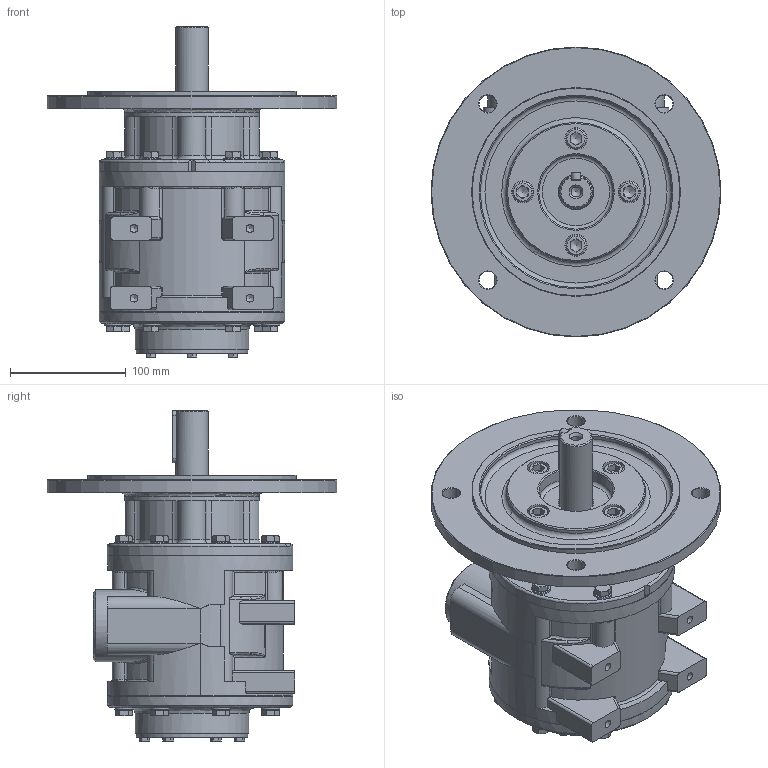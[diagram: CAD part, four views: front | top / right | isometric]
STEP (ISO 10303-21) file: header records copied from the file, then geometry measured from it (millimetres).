
FILE_DESCRIPTION (( 'STEP AP214' ), '1' );
FILE_NAME ('VS10C Defeature.STEP', '2022-06-14T12:01:30', ( '' ), ( '' ), 'SwSTEP 2.0', 'SolidWorks 2020', '' );
FILE_SCHEMA (( 'AUTOMOTIVE_DESIGN' ));
Length unit declared in the file: millimetre
Products named in the file (1): VS10C Defeature
Bounding box: 250 x 250 x 285.3 mm (x, y, z)
Volume: 4047840.2 mm3; surface area: 291840.1 mm2
Topology: 1 solids, 17 shells, 964 faces, 2354 edges, 1447 vertices
Faces by surface type: plane 477, cylinder 201, cone 170, bspline 95, torus 21
Full cylindrical faces by diameter (mm): 6.8 x4, 8 x22, 8.4 x16, 8.5 x1, 13 x16, 15 x4, 16 x16, 18 x4, 19 x4, 28 x1, 30 x1, 30.5 x1, 38.952 x2, 62 x2, 64 x1, 96 x1, 98 x1, 116 x1, 120 x1, 158 x2, 160 x3, 165 x1, 180 x1, 250 x1
Entity records: 43872 total; most frequent: CARTESIAN_POINT 21014, ORIENTED_EDGE 4238, DIRECTION 3433, EDGE_CURVE 2119, VERTEX_POINT 1379, AXIS2_PLACEMENT_3D 1364, EDGE_LOOP 1196, FACE_OUTER_BOUND 1076
